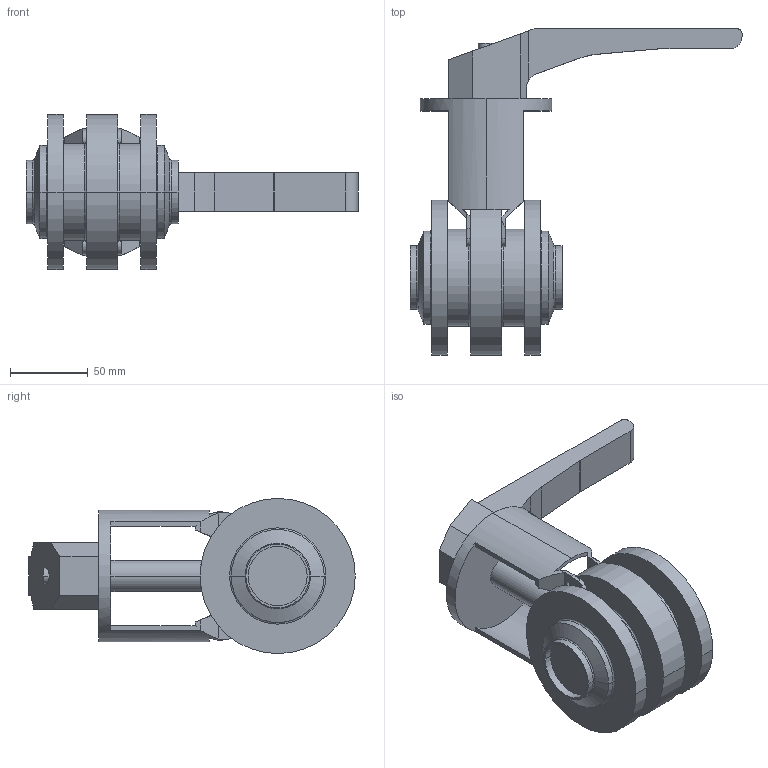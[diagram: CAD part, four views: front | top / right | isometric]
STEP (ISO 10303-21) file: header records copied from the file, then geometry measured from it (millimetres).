
FILE_DESCRIPTION(('Creo Elements/Direct Modeling STEP Export'),'2;1');
FILE_NAME('SVS1F-40-HL-12S.stp','2015-02-10T16:34:13',(''),(''),'Creo Elements/Direct Modeling STEP processor for AP214 (Solid Model)','Creo Elements/Direct Modeling 17.0D 15-Jul-2011 (C) Parametric Technology GmbH','');
FILE_SCHEMA(('AUTOMOTIVE_DESIGN { 1 0 10303 214 1 1 1 1 }'));
Length unit declared in the file: millimetre
Products named in the file (4): SVS1F-40-H-12S; Handhebel-SV-40-100; SV_Laterne_HL_40_50; SVS1F-40-HL-12S
Assembly tree (3 placements, depth 2):
  SVS1F-40-HL-12S
    SV_Laterne_HL_40_50
    Handhebel-SV-40-100
    SVS1F-40-H-12S
Bounding box: 214 x 210.46 x 100 mm (x, y, z)
Volume: 664621.4 mm3; surface area: 113753.9 mm2
Topology: 3 solids, 3 shells, 157 faces, 399 edges, 258 vertices
Faces by surface type: plane 92, cylinder 49, torus 12, cone 4
Entity records: 4969 total; most frequent: CARTESIAN_POINT 1148, ORIENTED_EDGE 798, DIRECTION 761, EDGE_CURVE 399, AXIS2_PLACEMENT_3D 264, VERTEX_POINT 258, VECTOR 233, LINE 233
